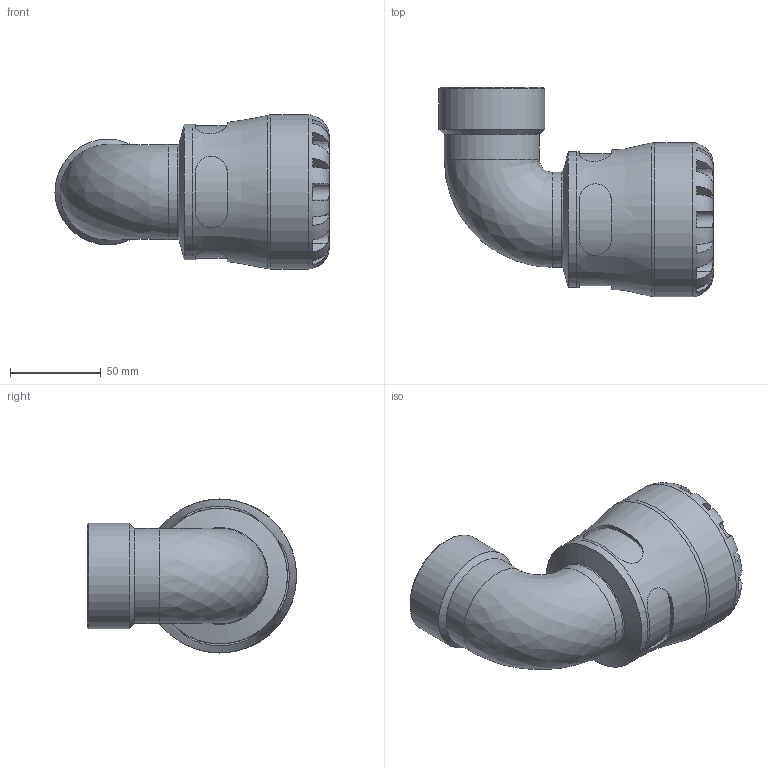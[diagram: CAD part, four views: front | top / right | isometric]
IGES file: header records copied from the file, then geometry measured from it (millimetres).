
Global section: file name: 107600050015_197600050015.ipt; native system: Autodesk Inventor 2015; preprocessor: unknown; author: KIM; date: 20180513.110328; units: millimetre
Bounding box: 151.15 x 115.5 x 85 mm (x, y, z)
Volume: 335515.9 mm3; surface area: 72262.9 mm2
Topology: 1 solids, 1 shells, 108 faces, 277 edges, 176 vertices
Faces by surface type: plane 60, revolution 28, cylinder 17, cone 3
Full cylindrical faces by diameter (mm): 52.469 x2, 58.298 x1, 74.8 x1, 85 x1
